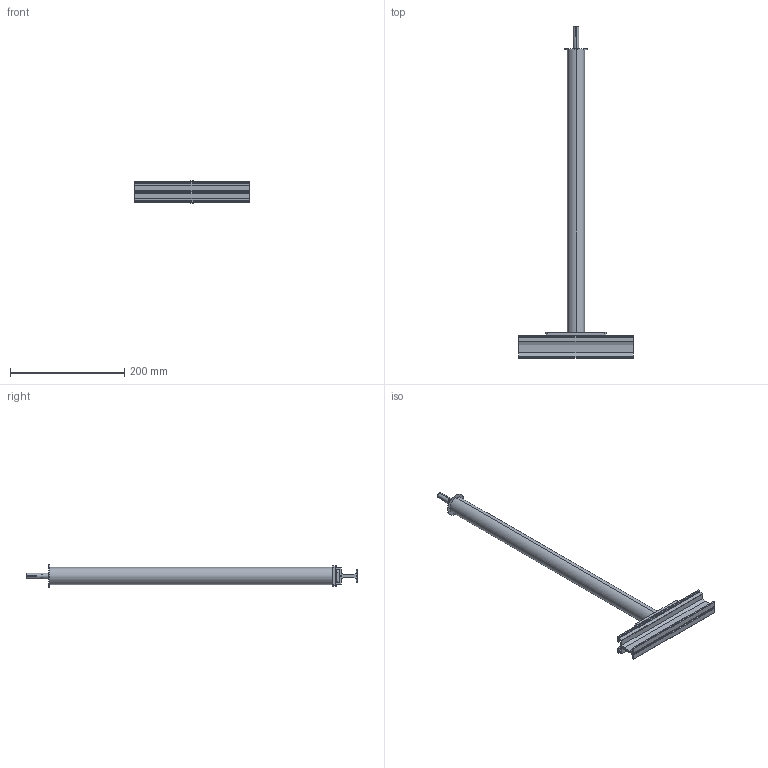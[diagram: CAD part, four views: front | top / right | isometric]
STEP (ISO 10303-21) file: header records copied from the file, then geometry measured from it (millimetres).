
FILE_DESCRIPTION (( 'STEP AP214' ), '1' );
FILE_NAME ('31158092_0500_abh_office_silber_asm.STEP', '2021-03-17T14:36:37', ( '' ), ( '' ), 'SwSTEP 2.0', 'SolidWorks 2019', '' );
FILE_SCHEMA (( 'AUTOMOTIVE_DESIGN' ));
Length unit declared in the file: millimetre
Products named in the file (12): D6912_08_030_ST; I10642_08_012_88_1; VERBINDUNGSMUTTER_M8X50_6KT; 31158092_0500_abh_office_silber_asm; E24032_MT_080_8_1; 31150091_NUTENSTEIN_1; 31158092_03_PLATTE; 31158091_02_0500_GEWST_M8; 31158092_01_0500_ALUROHR_SILBER; Trumpt 95; 0000284493_KOTFLUEGELSCHEIBE; EINSCHLAGANKER_EA_M8
Assembly tree (14 placements, depth 2):
  31158092_0500_abh_office_silber_asm
    31158092_03_PLATTE
    31158092_01_0500_ALUROHR_SILBER
    0000284493_KOTFLUEGELSCHEIBE
    EINSCHLAGANKER_EA_M8
    31158091_02_0500_GEWST_M8
    E24032_MT_080_8_1  x2
    VERBINDUNGSMUTTER_M8X50_6KT
    31150091_NUTENSTEIN_1  x2
    I10642_08_012_88_1  x2
    D6912_08_030_ST
    Trumpt 95
Bounding box: 200 x 580.25 x 40 mm (x, y, z)
Volume: 227828.9 mm3; surface area: 175199.2 mm2
Topology: 10 solids, 18 shells, 416 faces, 988 edges, 606 vertices
Faces by surface type: plane 154, cylinder 120, cone 102, bspline 40
Entity records: 10742 total; most frequent: CARTESIAN_POINT 3068, DIRECTION 1537, ORIENTED_EDGE 1480, EDGE_CURVE 746, AXIS2_PLACEMENT_3D 595, VERTEX_POINT 465, VECTOR 347, LINE 347
